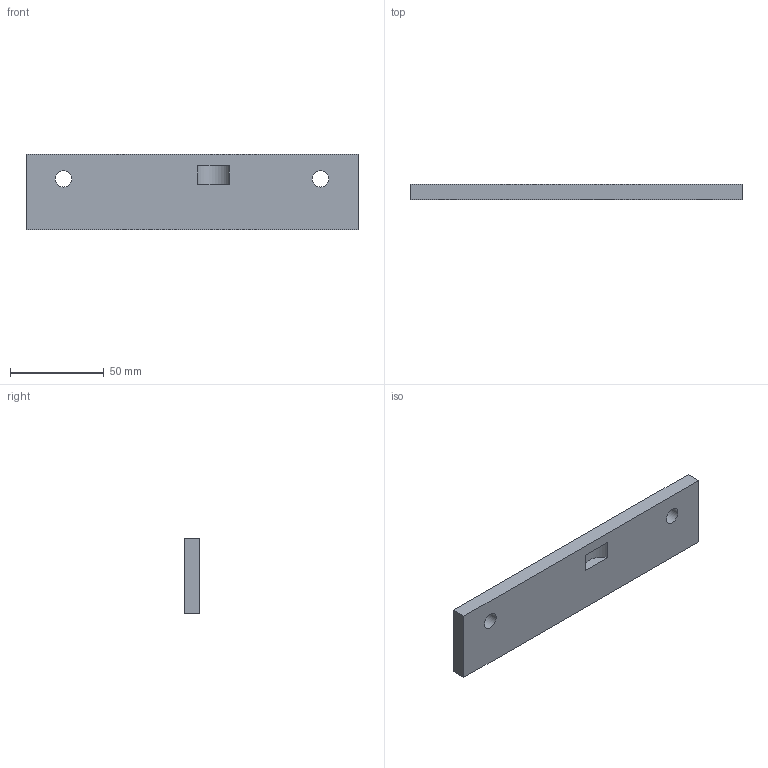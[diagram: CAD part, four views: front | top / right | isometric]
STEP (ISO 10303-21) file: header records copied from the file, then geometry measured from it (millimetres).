
FILE_DESCRIPTION(('Open CASCADE Model'),'2;1');
FILE_NAME('Open CASCADE Shape Model','2026-10-04T02:31:44',('Author'),( 'Open CASCADE'),'Open CASCADE STEP processor 8.0','Open CASCADE 8.0' ,'Unknown');
FILE_SCHEMA(('AUTOMOTIVE_DESIGN { 1 0 10303 214 1 1 1 1 }'));
Length unit declared in the file: millimetre
Products named in the file (1): Open CASCADE STEP translator 8.0 335
Bounding box: 177 x 8 x 40 mm (x, y, z)
Volume: 55028.7 mm3; surface area: 18000.2 mm2
Topology: 1 solids, 1 shells, 11 faces, 24 edges, 16 vertices
Faces by surface type: plane 8, cylinder 3
Full cylindrical faces by diameter (mm): 8.8 x2
Entity records: 634 total; most frequent: DIRECTION 102, CARTESIAN_POINT 100, LINE 60, VECTOR 60, ORIENTED_EDGE 48, PCURVE 48, DEFINITIONAL_REPRESENTATION 48, EDGE_CURVE 24
